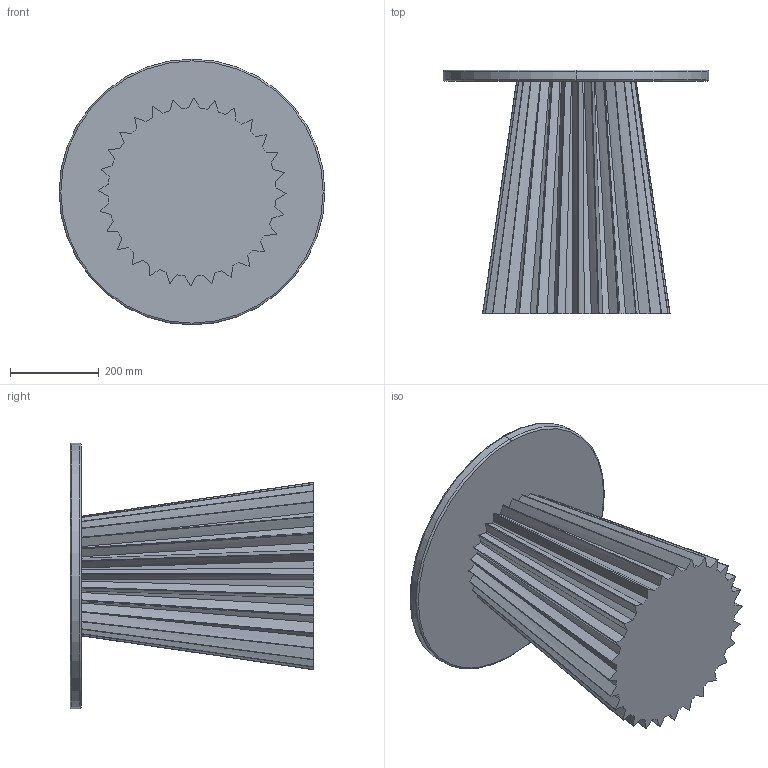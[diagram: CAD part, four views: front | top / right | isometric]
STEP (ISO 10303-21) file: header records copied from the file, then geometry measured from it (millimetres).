
FILE_DESCRIPTION (( 'STEP AP203' ), '1' );
FILE_NAME ('Flute table tall (550H x 600D).STEP', '2025-10-21T19:35:29', ( '' ), ( '' ), 'SwSTEP 2.0', 'SolidWorks 2024', '' );
FILE_SCHEMA (( 'CONFIG_CONTROL_DESIGN' ));
Length unit declared in the file: millimetre
Products named in the file (1): Flute table tall (550H x 600D)
Bounding box: 600 x 550 x 600 mm (x, y, z)
Volume: 49267548.3 mm3; surface area: 1643099.8 mm2
Topology: 2 solids, 2 shells, 127 faces, 360 edges, 238 vertices
Faces by surface type: bspline 84, cone 28, torus 8, plane 5, cylinder 2
Entity records: 6167 total; most frequent: CARTESIAN_POINT 3330, ORIENTED_EDGE 720, EDGE_CURVE 360, DIRECTION 358, VERTEX_POINT 238, B_SPLINE_CURVE_WITH_KNOTS 168, EDGE_LOOP 128, ADVANCED_FACE 127
